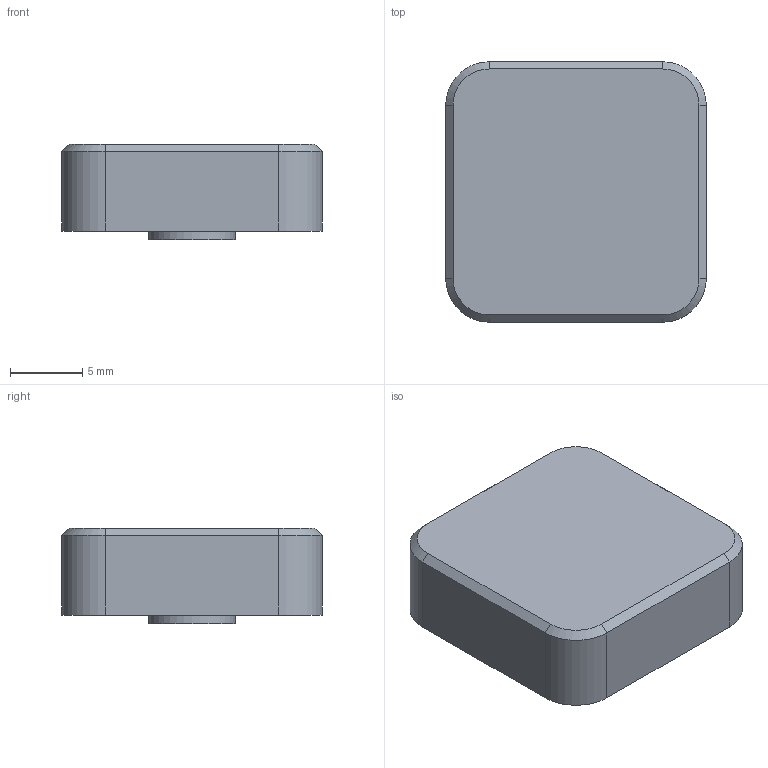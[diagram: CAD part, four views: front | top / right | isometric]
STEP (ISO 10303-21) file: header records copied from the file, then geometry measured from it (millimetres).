
FILE_DESCRIPTION(('Open CASCADE Model'),'2;1');
FILE_NAME('Open CASCADE Shape Model','2026-09-13T11:40:35',('Author'),( 'Open CASCADE'),'Open CASCADE STEP processor 7.9','Open CASCADE 7.9' ,'Unknown');
FILE_SCHEMA(('AUTOMOTIVE_DESIGN { 1 0 10303 214 1 1 1 1 }'));
Length unit declared in the file: millimetre
Products named in the file (1): Open CASCADE STEP translator 7.9 8
Bounding box: 18 x 18 x 6.6 mm (x, y, z)
Volume: 1032.8 mm3; surface area: 1412.3 mm2
Topology: 1 solids, 1 shells, 42 faces, 103 edges, 66 vertices
Faces by surface type: plane 29, cylinder 9, cone 4
Full cylindrical faces by diameter (mm): 6 x1
Entity records: 2545 total; most frequent: CARTESIAN_POINT 528, DIRECTION 352, LINE 213, VECTOR 213, ORIENTED_EDGE 206, PCURVE 206, DEFINITIONAL_REPRESENTATION 206, EDGE_CURVE 103
